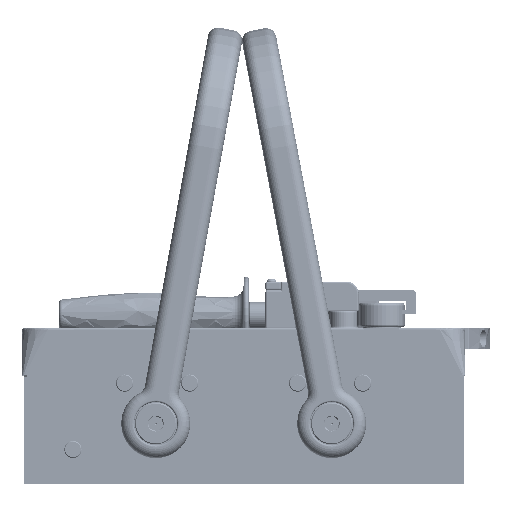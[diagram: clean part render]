
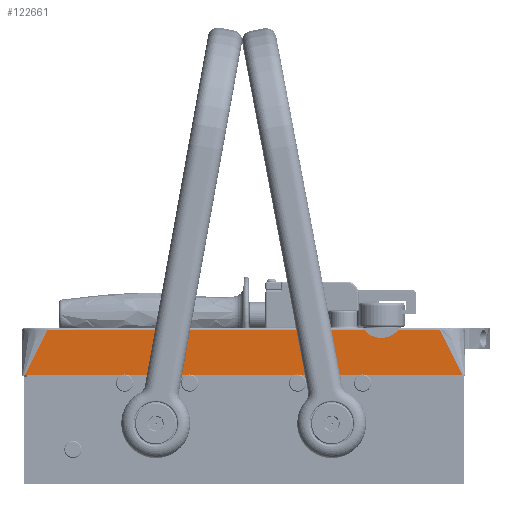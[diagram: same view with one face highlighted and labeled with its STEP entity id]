
A CAD part, top view. The second image highlights one B-rep face of the part: STEP entity #122661.
In plain terms, the highlighted planar face has unit normal (0, 0, 1).
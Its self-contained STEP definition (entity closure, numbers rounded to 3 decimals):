
#869 = LINE ( 'NONE', #58977, #299303 ) ;
#3056 = B_SPLINE_CURVE_WITH_KNOTS ( 'NONE', 3,
 ( #317005, #83908, #86150, #163945 ),
 .UNSPECIFIED., .F., .F.,
 ( 4, 4 ),
 ( 0.655, 0.964 ),
 .UNSPECIFIED. ) ;
#4258 = DIRECTION ( 'NONE',  ( -1., 0., 0. ) ) ;
#23194 = VECTOR ( 'NONE', #156169, 1000. ) ;
#24761 = LINE ( 'NONE', #324468, #65722 ) ;
#36903 = ORIENTED_EDGE ( 'NONE', *, *, #58635, .T. ) ;
#49605 = AXIS2_PLACEMENT_3D ( 'NONE', #55638, #54495, #4258 ) ;
#54495 = DIRECTION ( 'NONE',  ( 0., 0., -1. ) ) ;
#55638 = CARTESIAN_POINT ( 'NONE',  ( 0., 0., 97.603 ) ) ;
#58635 = EDGE_CURVE ( 'NONE', #283769, #76309, #301229, .T. ) ;
#58977 = CARTESIAN_POINT ( 'NONE',  ( 15.385, -1., 97.603 ) ) ;
#59058 = CIRCLE ( 'NONE', #223773, 13. ) ;
#62045 = ORIENTED_EDGE ( 'NONE', *, *, #155533, .T. ) ;
#65722 = VECTOR ( 'NONE', #116523, 1000. ) ;
#68309 = CARTESIAN_POINT ( 'NONE',  ( 0., -27.4, 97.603 ) ) ;
#76309 = VERTEX_POINT ( 'NONE', #144894 ) ;
#83908 = CARTESIAN_POINT ( 'NONE',  ( 10.432, -9.8, 97.603 ) ) ;
#86150 = CARTESIAN_POINT ( 'NONE',  ( 5.985, -18.6, 97.603 ) ) ;
#90839 = CARTESIAN_POINT ( 'NONE',  ( 251.015, -18.6, 97.603 ) ) ;
#116523 = DIRECTION ( 'NONE',  ( -1., 0., 0. ) ) ;
#122661 = ADVANCED_FACE ( 'NONE', ( #189218 ), #160860, .F. ) ;
#124640 = CARTESIAN_POINT ( 'NONE',  ( 242.121, -1., 97.603 ) ) ;
#127335 = DIRECTION ( 'NONE',  ( -1., 0., 0. ) ) ;
#144894 = CARTESIAN_POINT ( 'NONE',  ( 255.462, -27.4, 97.603 ) ) ;
#155533 = EDGE_CURVE ( 'NONE', #329744, #283769, #3056, .T. ) ;
#155888 = DIRECTION ( 'NONE',  ( -1., 0., 0. ) ) ;
#156169 = DIRECTION ( 'NONE',  ( 1., 0., 0. ) ) ;
#156842 = CARTESIAN_POINT ( 'NONE',  ( 218.177, -1., 97.603 ) ) ;
#160860 = PLANE ( 'NONE',  #49605 ) ;
#163945 = CARTESIAN_POINT ( 'NONE',  ( 1.538, -27.4, 97.603 ) ) ;
#165777 = CARTESIAN_POINT ( 'NONE',  ( 14.879, -1., 97.603 ) ) ;
#167513 = CARTESIAN_POINT ( 'NONE',  ( 246.568, -9.8, 97.603 ) ) ;
#178600 = ORIENTED_EDGE ( 'NONE', *, *, #331026, .T. ) ;
#179878 = DIRECTION ( 'NONE',  ( 0., 0., 1. ) ) ;
#181630 = EDGE_CURVE ( 'NONE', #76309, #251300, #192331, .T. ) ;
#188191 = CARTESIAN_POINT ( 'NONE',  ( 198.183, -1., 97.603 ) ) ;
#189218 = FACE_OUTER_BOUND ( 'NONE', #194641, .T. ) ;
#192331 = B_SPLINE_CURVE_WITH_KNOTS ( 'NONE', 3,
 ( #196057, #90839, #167513, #322858 ),
 .UNSPECIFIED., .F., .F.,
 ( 4, 4 ),
 ( 0.036, 0.345 ),
 .UNSPECIFIED. ) ;
#194641 = EDGE_LOOP ( 'NONE', ( #195760, #178600, #62045, #36903, #257506, #316461 ) ) ;
#195760 = ORIENTED_EDGE ( 'NONE', *, *, #325690, .F. ) ;
#196057 = CARTESIAN_POINT ( 'NONE',  ( 255.462, -27.4, 97.603 ) ) ;
#223773 = AXIS2_PLACEMENT_3D ( 'NONE', #336422, #179878, #155888 ) ;
#251300 = VERTEX_POINT ( 'NONE', #124640 ) ;
#253388 = VERTEX_POINT ( 'NONE', #156842 ) ;
#257506 = ORIENTED_EDGE ( 'NONE', *, *, #181630, .T. ) ;
#283769 = VERTEX_POINT ( 'NONE', #302153 ) ;
#299303 = VECTOR ( 'NONE', #127335, 1000. ) ;
#301229 = LINE ( 'NONE', #68309, #23194 ) ;
#302153 = CARTESIAN_POINT ( 'NONE',  ( 1.538, -27.4, 97.603 ) ) ;
#307763 = VERTEX_POINT ( 'NONE', #188191 ) ;
#314144 = EDGE_CURVE ( 'NONE', #251300, #253388, #869, .T. ) ;
#316461 = ORIENTED_EDGE ( 'NONE', *, *, #314144, .T. ) ;
#317005 = CARTESIAN_POINT ( 'NONE',  ( 14.879, -1., 97.603 ) ) ;
#322858 = CARTESIAN_POINT ( 'NONE',  ( 242.121, -1., 97.603 ) ) ;
#324468 = CARTESIAN_POINT ( 'NONE',  ( 15.385, -1., 97.603 ) ) ;
#325690 = EDGE_CURVE ( 'NONE', #307763, #253388, #59058, .T. ) ;
#329744 = VERTEX_POINT ( 'NONE', #165777 ) ;
#331026 = EDGE_CURVE ( 'NONE', #307763, #329744, #24761, .T. ) ;
#336422 = CARTESIAN_POINT ( 'NONE',  ( 208.18, 7.31, 97.603 ) ) ;
